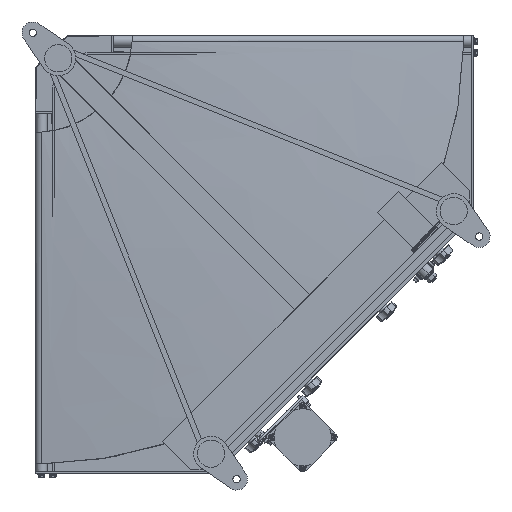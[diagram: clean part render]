
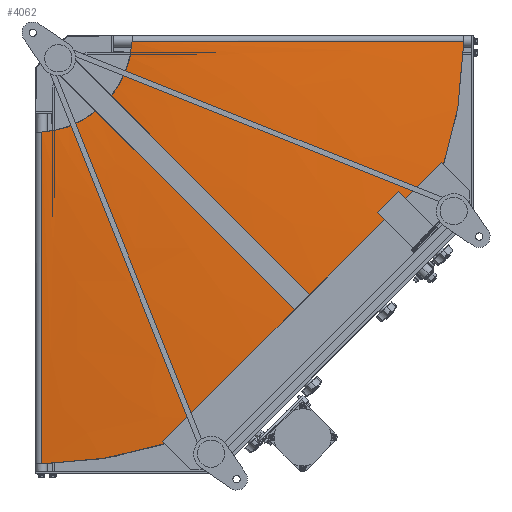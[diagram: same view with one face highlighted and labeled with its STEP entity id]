
A CAD part, front view. The second image highlights one B-rep face of the part: STEP entity #4062.
In plain terms, the highlighted free-form (B-spline) face has degree [3, 3] with [6, 4] control points.
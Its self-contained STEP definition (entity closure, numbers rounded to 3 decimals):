
#4062=ADVANCED_FACE('',(#17943),#17942,.F.);
#17942=( BOUNDED_SURFACE() B_SPLINE_SURFACE( 3,3,((#28796,#28797,#28798,#28799),(#28800,#28801,#28802,#28803),(#28804,#28805,#28806,#28807),(#28808,#28809,#28810,#28811),(#28812,#28813,#28814,#28815),(#28816,#28817,#28818,#28819)), .UNSPECIFIED.,.F.,.F.,.F.) B_SPLINE_SURFACE_WITH_KNOTS((4,2,4),(4,4),(-0.009,0.5,1.009),(-0.066,1.066), .UNSPECIFIED. ) GEOMETRIC_REPRESENTATION_ITEM() RATIONAL_B_SPLINE_SURFACE(((1.,1.,1.,1.),(1.,1.,1.,1.),(1.,1.,1.,1.),(1.,1.,1.,1.),(1.,1.,1.,1.),(1.,1.,1.,1.))) REPRESENTATION_ITEM('') SURFACE() );
#17943=FACE_OUTER_BOUND('',#28820,.T.);
#28796=CARTESIAN_POINT('',(787.165,-18.178,1.063));
#28797=CARTESIAN_POINT('',(568.459,-18.716,-2.057));
#28798=CARTESIAN_POINT('',(349.753,-19.255,-5.176));
#28799=CARTESIAN_POINT('',(131.048,-19.794,-8.296));
#28800=CARTESIAN_POINT('',(786.741,-46.965,-206.657));
#28801=CARTESIAN_POINT('',(567.5,-37.317,-151.205));
#28802=CARTESIAN_POINT('',(348.26,-27.669,-95.753));
#28803=CARTESIAN_POINT('',(129.02,-18.021,-40.301));
#28804=CARTESIAN_POINT('',(702.983,-63.137,-406.895));
#28805=CARTESIAN_POINT('',(507.139,-47.766,-294.713));
#28806=CARTESIAN_POINT('',(311.296,-32.395,-182.531));
#28807=CARTESIAN_POINT('',(115.453,-17.024,-70.349));
#28808=CARTESIAN_POINT('',(406.895,-63.137,-702.983));
#28809=CARTESIAN_POINT('',(294.713,-47.766,-507.139));
#28810=CARTESIAN_POINT('',(182.531,-32.395,-311.296));
#28811=CARTESIAN_POINT('',(70.349,-17.024,-115.453));
#28812=CARTESIAN_POINT('',(206.657,-46.965,-786.741));
#28813=CARTESIAN_POINT('',(151.205,-37.317,-567.5));
#28814=CARTESIAN_POINT('',(95.753,-27.669,-348.26));
#28815=CARTESIAN_POINT('',(40.301,-18.021,-129.02));
#28816=CARTESIAN_POINT('',(-1.063,-18.178,-787.165));
#28817=CARTESIAN_POINT('',(2.057,-18.716,-568.459));
#28818=CARTESIAN_POINT('',(5.176,-19.255,-349.753));
#28819=CARTESIAN_POINT('',(8.296,-19.794,-131.048));
#28820=EDGE_LOOP('',(#36191,#36192,#36193,#36194));
#36191=ORIENTED_EDGE('',*,*,#39871,.F.);
#36192=ORIENTED_EDGE('',*,*,#39872,.T.);
#36193=ORIENTED_EDGE('',*,*,#39873,.T.);
#36194=ORIENTED_EDGE('',*,*,#39874,.F.);
#39871=EDGE_CURVE('',#60598,#60599,#60600,.T.);
#39872=EDGE_CURVE('',#60598,#60606,#60607,.T.);
#39873=EDGE_CURVE('',#60606,#60613,#60614,.T.);
#39874=EDGE_CURVE('',#60599,#60613,#60620,.T.);
#60598=VERTEX_POINT('',#77463);
#60599=VERTEX_POINT('',#77464);
#60600=(BOUNDED_CURVE() B_SPLINE_CURVE(3,(#77465,#77466,#77467,#77468,#77469,#77470,#77471,#77472,#77473,#77474,#77475,#77476,#77477,#77478,#77479,#77480,#77481,#77482,#77483,#77484,#77485,#77486,#77487,#77488,#77489,#77490,#77491,#77492,#77493,#77494,#77495,#77496,#77497,#77498),.UNSPECIFIED.,.F.,.F.) B_SPLINE_CURVE_WITH_KNOTS((4,2,2,2,2,2,2,2,2,2,2,2,2,2,2,2,4),(0.,0.063,0.125,0.188,0.25,0.313,0.375,0.438,0.5,0.563,0.625,0.688,0.75,0.813,0.875,0.938,1.),.UNSPECIFIED.) CURVE() GEOMETRIC_REPRESENTATION_ITEM() RATIONAL_B_SPLINE_CURVE((1.,1.,1.,1.,1.,1.,1.,1.,1.,1.,1.,1.,1.,1.,1.,1.,1.,1.,1.,1.,1.,1.,1.,1.,1.,1.,1.,1.,1.,1.,1.,1.,1.,1.)) REPRESENTATION_ITEM('') );
#60606=VERTEX_POINT('',#77499);
#60607=LINE('',#77500,#77501);
#60613=VERTEX_POINT('',#77503);
#60614=(BOUNDED_CURVE() B_SPLINE_CURVE(3,(#77504,#77505,#77506,#77507,#77508,#77509,#77510,#77511,#77512,#77513,#77514),.UNSPECIFIED.,.F.,.F.) B_SPLINE_CURVE_WITH_KNOTS((4,1,1,1,1,1,1,1,4),(0.,0.134,0.224,0.334,0.5,0.666,0.776,0.866,1.),.UNSPECIFIED.) CURVE() GEOMETRIC_REPRESENTATION_ITEM() RATIONAL_B_SPLINE_CURVE((1.,1.,1.,1.,1.,1.,1.,1.,1.,1.,1.)) REPRESENTATION_ITEM('') );
#60620=LINE('',#77515,#77516);
#77463=CARTESIAN_POINT('',(748.933,-19.7,-10.));
#77464=CARTESIAN_POINT('',(10.,-19.7,-748.933));
#77465=CARTESIAN_POINT('',(748.933,-19.7,-10.));
#77466=CARTESIAN_POINT('',(748.611,-22.929,-33.954));
#77467=CARTESIAN_POINT('',(747.142,-25.998,-57.904));
#77468=CARTESIAN_POINT('',(741.907,-31.791,-105.597));
#77469=CARTESIAN_POINT('',(738.138,-34.515,-129.344));
#77470=CARTESIAN_POINT('',(728.321,-39.592,-176.417));
#77471=CARTESIAN_POINT('',(722.276,-41.945,-199.742));
#77472=CARTESIAN_POINT('',(707.953,-46.256,-245.734));
#77473=CARTESIAN_POINT('',(699.672,-48.214,-268.399));
#77474=CARTESIAN_POINT('',(680.957,-51.715,-312.851));
#77475=CARTESIAN_POINT('',(670.523,-53.259,-334.636));
#77476=CARTESIAN_POINT('',(647.591,-55.916,-377.109));
#77477=CARTESIAN_POINT('',(635.093,-57.029,-397.796));
#77478=CARTESIAN_POINT('',(608.148,-58.815,-437.882));
#77479=CARTESIAN_POINT('',(593.698,-59.488,-457.281));
#77480=CARTESIAN_POINT('',(562.983,-60.385,-494.603));
#77481=CARTESIAN_POINT('',(546.719,-60.611,-512.527));
#77482=CARTESIAN_POINT('',(512.532,-60.611,-546.714));
#77483=CARTESIAN_POINT('',(494.608,-60.385,-562.978));
#77484=CARTESIAN_POINT('',(457.286,-59.488,-593.694));
#77485=CARTESIAN_POINT('',(437.888,-58.815,-608.144));
#77486=CARTESIAN_POINT('',(397.801,-57.029,-635.089));
#77487=CARTESIAN_POINT('',(377.114,-55.916,-647.587));
#77488=CARTESIAN_POINT('',(334.643,-53.259,-670.52));
#77489=CARTESIAN_POINT('',(312.859,-51.715,-680.954));
#77490=CARTESIAN_POINT('',(268.408,-48.214,-699.669));
#77491=CARTESIAN_POINT('',(245.742,-46.257,-707.95));
#77492=CARTESIAN_POINT('',(199.745,-41.945,-722.274));
#77493=CARTESIAN_POINT('',(176.417,-39.591,-728.32));
#77494=CARTESIAN_POINT('',(129.338,-34.514,-738.138));
#77495=CARTESIAN_POINT('',(105.59,-31.79,-741.909));
#77496=CARTESIAN_POINT('',(57.9,-25.998,-747.144));
#77497=CARTESIAN_POINT('',(33.954,-22.929,-748.612));
#77498=CARTESIAN_POINT('',(10.,-19.7,-748.933));
#77499=CARTESIAN_POINT('',(168.704,-19.7,-10.));
#77500=CARTESIAN_POINT('',(748.933,-19.7,-10.));
#77501=VECTOR('',#77502,580.229);
#77502=DIRECTION('',(-1.,0.,0.));
#77503=CARTESIAN_POINT('',(10.,-19.7,-168.704));
#77504=CARTESIAN_POINT('',(168.704,-19.7,-10.));
#77505=CARTESIAN_POINT('',(168.056,-19.696,-20.952));
#77506=CARTESIAN_POINT('',(165.188,-19.691,-39.108));
#77507=CARTESIAN_POINT('',(156.616,-19.685,-65.058));
#77508=CARTESIAN_POINT('',(143.203,-19.681,-91.898));
#77509=CARTESIAN_POINT('',(120.677,-19.678,-120.677));
#77510=CARTESIAN_POINT('',(91.898,-19.681,-143.203));
#77511=CARTESIAN_POINT('',(65.058,-19.685,-156.616));
#77512=CARTESIAN_POINT('',(39.108,-19.691,-165.188));
#77513=CARTESIAN_POINT('',(20.952,-19.696,-168.056));
#77514=CARTESIAN_POINT('',(10.,-19.7,-168.704));
#77515=CARTESIAN_POINT('',(10.,-19.7,-748.933));
#77516=VECTOR('',#77517,580.229);
#77517=DIRECTION('',(0.,0.,1.));
